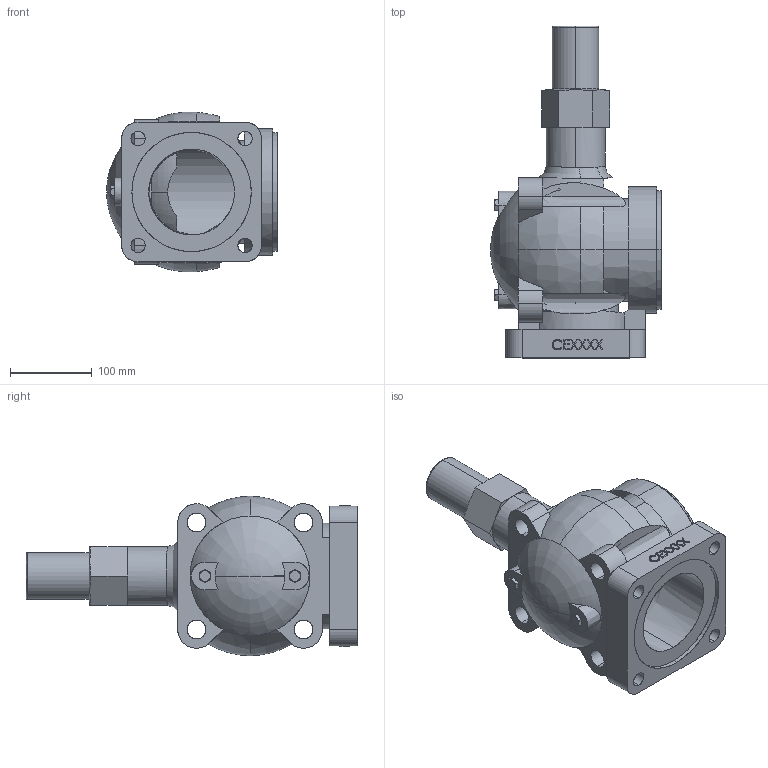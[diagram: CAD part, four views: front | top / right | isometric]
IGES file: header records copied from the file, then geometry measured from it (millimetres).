
Start section: SolidWorks IGES file using analytic representation for surfaces
Bounding box: 209 x 406 x 195.25 mm (x, y, z)
Surface area: 346042.9 mm2 (no closed solid volume)
Topology: 0 solids, 0 shells, 355 faces, 5237 edges, 5232 vertices
Faces by surface type: bspline 275, revolution 80
